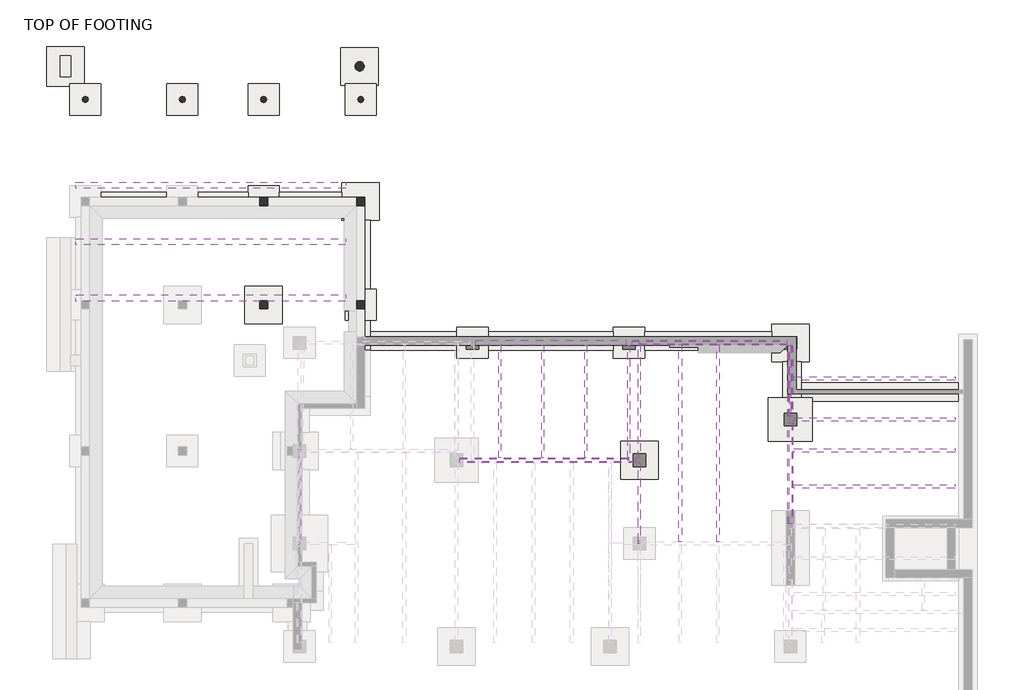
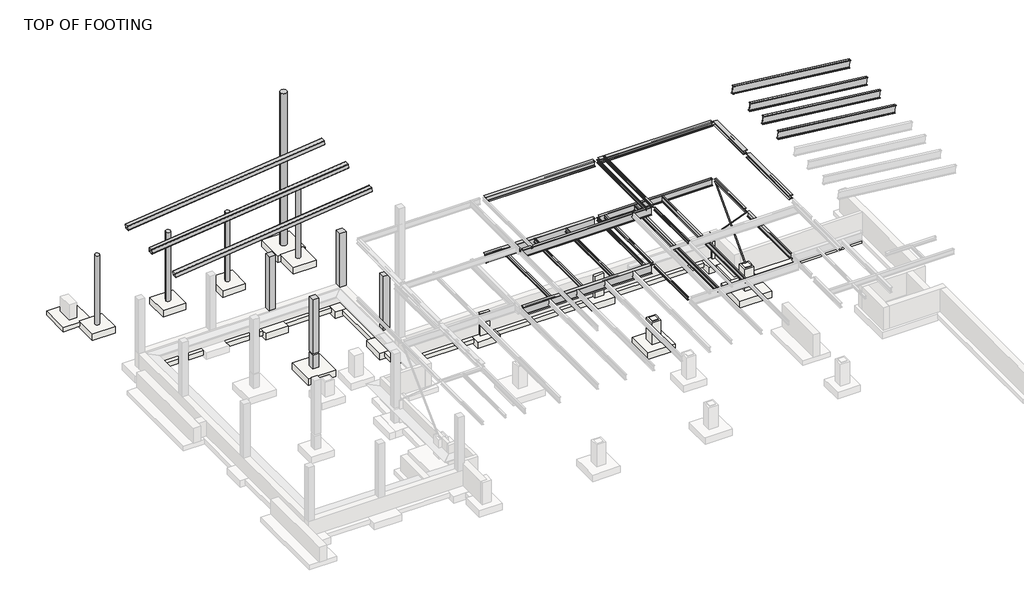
# One storey, part 4 of 4: 28 beams, 14 slabs, 9 columns, 6 footings, 2 members.
"""IFC4 building model written with IfcOpenShell, lengths in millimetres."""

from ifc_helpers import new_model, si_unit, point, frame, frame_2d, origin, place, context, project, spatial, polyline, circle_curve, trimmed, segment, composite_curve, outline, extrude, faceted_brep, transform, mapped, element, save
from components import hss_hollow_structural_section_hss12x12x1_2_ac1cf4bf, hss_hollow_structural_section_hss12x12x1_2_830ae8b1, w_wide_flange_w10x12_049afd95, w_wide_flange_w10x49_ad4ce5ef, w_wide_flange_w10x49_01df90bb, w_wide_flange_w10x49_a7e93ba8, w_wide_flange_w14x22_59cbeafc, w_wide_flange_w14x22_9bef81b0, w_wide_flange_w14x61_a1268b43, w_wide_flange_w18x46_8f6cf0fd, w_wide_flange_w21x44_bd9b7f00, w_wide_flange_w21x44_d1ecdd04, w_wide_flange_w21x44_476cda67, w_wide_flange_w21x44_bd7c8782, w_wide_flange_w21x44_7aeec852, w_wide_flange_w24x84_0eef56af, w_wide_flange_w24x84_97a9cff7, w_wide_flange_w8x10_1bc876d9, w_wide_flange_w8x10_22581100, w_wide_flange_w8x10_418ab950, w_wide_flange_w8x10_6a41b71d, w_wide_flange_w8x10_be9bb2d2, slab_df1ede25, slab_6d6a3403, footing_rectangular_with_pier_e052c68f

model = new_model("IFC4")

# Units and contexts
model_context = context("Model", 3, world=origin())
ifc_project = project(units=[si_unit("LENGTHUNIT", "METRE", prefix="MILLI")], contexts=[model_context])

# Site, building, storey
site = spatial("IfcSite", under=ifc_project)
building = spatial("IfcBuilding", under=site)
storey = spatial("IfcBuildingStorey", under=building, Name="TOP OF FOOTING", Elevation=28905.2)

# Beams
placement = place(None, origin())
hss_hollow_structural_section_hss12x12x1_2_shape = hss_hollow_structural_section_hss12x12x1_2_ac1cf4bf(model_context)
element("IfcBeam", 1, ObjectType="HSS-Hollow Structural Section : HSS12X12X1/2", at=placement, inside=storey, context=model_context, shape_type="MappedRepresentation", body=[
    mapped(hss_hollow_structural_section_hss12x12x1_2_shape, transform((-14730.32539, 15509.5995005, 39127.1188846), x_axis=(-0.9938030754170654, 0.0, -0.11115505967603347), y_axis=(0.0, -1.0, 0.0), z_axis=(-0.11115505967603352, 0.0, 0.9938030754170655))),
])
hss_hollow_structural_section_hss12x12x1_2_2_shape = hss_hollow_structural_section_hss12x12x1_2_830ae8b1(model_context)
element("IfcBeam", 2, ObjectType="HSS-Hollow Structural Section : HSS12X12X1/2", at=placement, inside=storey, context=model_context, shape_type="MappedRepresentation", body=[
    mapped(hss_hollow_structural_section_hss12x12x1_2_2_shape, transform((-14730.32539, 12766.3995005, 39127.1188846), x_axis=(-0.9938030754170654, 0.0, -0.11115505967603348), y_axis=(0.0, -1.0, 0.0), z_axis=(-0.1111550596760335, 0.0, 0.9938030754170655))),
])
element("IfcBeam", 3, ObjectType="HSS-Hollow Structural Section : HSS12X12X1/2", at=placement, inside=storey, context=model_context, shape_type="MappedRepresentation", body=[
    mapped(hss_hollow_structural_section_hss12x12x1_2_2_shape, transform((-14730.32539, 10023.1995005, 39127.1188846), x_axis=(-0.9938030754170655, 0.0, -0.11115505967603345), y_axis=(0.0, -1.0000000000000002, 0.0), z_axis=(-0.11115505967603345, 0.0, 0.9938030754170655))),
])
w_wide_flange_w10x12_shape = w_wide_flange_w10x12_049afd95(model_context)
element("IfcBeam", 4, ObjectType="W-Wide Flange : W10X12", at=placement, inside=storey, context=model_context, shape_type="MappedRepresentation", body=[
    mapped(w_wide_flange_w10x12_shape, transform((-589.9923357, 4984.1570005, 34253.551), x_axis=(0.0, -1.0, 0.0), y_axis=(1.0, 0.0, 0.0), z_axis=(0.0, 0.0, 1.0))),
])
element("IfcBeam", 5, ObjectType="W-Wide Flange : W10X12", at=placement, inside=storey, context=model_context, shape_type="MappedRepresentation", body=[
    mapped(w_wide_flange_w10x12_shape, transform((1509.8732893, 4984.1570005, 34253.551), x_axis=(0.0, -1.0, 0.0), y_axis=(1.0, 0.0, 0.0), z_axis=(0.0, 0.0, 1.0))),
])
element("IfcBeam", 6, ObjectType="W-Wide Flange : W10X12", at=placement, inside=storey, context=model_context, shape_type="MappedRepresentation", body=[
    mapped(w_wide_flange_w10x12_shape, transform((3609.7389143, 4984.1570005, 34253.551), x_axis=(0.0, -1.0, 0.0), y_axis=(1.0, 0.0, 0.0), z_axis=(0.0, 0.0, 1.0))),
])
w_wide_flange_w10x49_shape = w_wide_flange_w10x49_ad4ce5ef(model_context)
element("IfcBeam", 7, ObjectType="W-Wide Flange : W10X49", at=placement, inside=storey, context=model_context, shape_type="MappedRepresentation", body=[
    mapped(w_wide_flange_w10x49_shape, transform((9638.6670393, 7843.2445005, 38277.8), x_axis=(1.0, 0.0, 0.0), y_axis=(0.0, 1.0, 0.0), z_axis=(0.0, 0.0, 1.0))),
])
w_wide_flange_w10x49_2_shape = w_wide_flange_w10x49_01df90bb(model_context)
element("IfcBeam", 8, ObjectType="W-Wide Flange : W10X49", at=placement, inside=storey, context=model_context, shape_type="MappedRepresentation", body=[
    mapped(w_wide_flange_w10x49_2_shape, transform((13567.7295393, 5974.7570005, 38341.3), x_axis=(0.0, -1.0, 0.0), y_axis=(1.0, 0.0, 0.0), z_axis=(0.0, 0.0, 1.0))),
])
w_wide_flange_w10x49_3_shape = w_wide_flange_w10x49_a7e93ba8(model_context)
element("IfcBeam", 9, ObjectType="W-Wide Flange : W10X49", at=placement, inside=storey, context=model_context, shape_type="MappedRepresentation", body=[
    mapped(w_wide_flange_w10x49_3_shape, transform((13567.7295393, 1507.2018176, 38341.3), x_axis=(0.0, -1.0, 0.0), y_axis=(1.0, 0.0, 0.0), z_axis=(0.0, 0.0, 1.0))),
])
w_wide_flange_w14x22_shape = w_wide_flange_w14x22_59cbeafc(model_context)
element("IfcBeam", 10, ObjectType="W-Wide Flange : W14X22", at=placement, inside=storey, context=model_context, shape_type="MappedRepresentation", body=[
    mapped(w_wide_flange_w14x22_shape, transform((13567.7295393, 1512.895307, 34204.91), x_axis=(0.0, -1.0, 0.0), y_axis=(1.0, 0.0, 0.0), z_axis=(0.0, 0.0, 1.0))),
])
w_wide_flange_w14x22_2_shape = w_wide_flange_w14x22_9bef81b0(model_context)
element("IfcBeam", 11, ObjectType="W-Wide Flange : W14X22", at=placement, inside=storey, context=model_context, shape_type="MappedRepresentation", body=[
    mapped(w_wide_flange_w14x22_2_shape, transform((8209.3878726, 2953.7445005, 34204.91), x_axis=(0.0, -1.0, 0.0), y_axis=(1.0, 0.0, 0.0), z_axis=(0.0, 0.0, 1.0))),
])
element("IfcBeam", 12, ObjectType="W-Wide Flange : W14X22", at=placement, inside=storey, context=model_context, shape_type="MappedRepresentation", body=[
    mapped(w_wide_flange_w14x22_2_shape, transform((10037.658706, 2953.7445005, 34204.91), x_axis=(0.0, -1.0, 0.0), y_axis=(1.0, 0.0, 0.0), z_axis=(0.0, 0.0, 1.0))),
])
w_wide_flange_w14x61_shape = w_wide_flange_w14x61_a1268b43(model_context)
element("IfcBeam", 13, ObjectType="W-Wide Flange : W14X61", at=placement, inside=storey, context=model_context, shape_type="MappedRepresentation", body=[
    mapped(w_wide_flange_w14x61_shape, transform((1899.6045393, 7843.2445005, 38228.27), x_axis=(1.0, 0.0, 0.0), y_axis=(0.0, 1.0, 0.0), z_axis=(0.0, 0.0, 1.0))),
])
w_wide_flange_w18x46_shape = w_wide_flange_w18x46_8f6cf0fd(model_context)
element("IfcBeam", 14, ObjectType="W-Wide Flange : W18X46", at=placement, inside=storey, context=model_context, shape_type="MappedRepresentation", body=[
    mapped(w_wide_flange_w18x46_shape, transform((9638.6670393, 7843.2445005, 34149.03), x_axis=(1.0, 0.0, 0.0), y_axis=(0.0, 1.0, 0.0), z_axis=(0.0, 0.0, 1.0))),
])
w_wide_flange_w21x44_shape = w_wide_flange_w21x44_bd9b7f00(model_context)
element("IfcBeam", 15, ObjectType="W-Wide Flange : W21X44", at=placement, inside=storey, context=model_context, shape_type="MappedRepresentation", body=[
    mapped(w_wide_flange_w21x44_shape, transform((1695.6107893, 2125.0695005, 38141.91), x_axis=(1.0, 0.0, 0.0), y_axis=(0.0, 1.0, 0.0), z_axis=(0.0, 0.0, 1.0))),
])
w_wide_flange_w21x44_2_shape = w_wide_flange_w21x44_d1ecdd04(model_context)
element("IfcBeam", 16, ObjectType="W-Wide Flange : W21X44", at=placement, inside=storey, context=model_context, shape_type="MappedRepresentation", body=[
    mapped(w_wide_flange_w21x44_2_shape, transform((17638.6404524, 848.7029641, 41130.9681954), x_axis=(0.993803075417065, 0.0, -0.11115505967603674), y_axis=(0.0, 1.0, 0.0), z_axis=(0.11115505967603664, 0.0, 0.9938030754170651))),
])
w_wide_flange_w21x44_3_shape = w_wide_flange_w21x44_476cda67(model_context)
element("IfcBeam", 17, ObjectType="W-Wide Flange : W21X44", at=placement, inside=storey, context=model_context, shape_type="MappedRepresentation", body=[
    mapped(w_wide_flange_w21x44_3_shape, transform((17638.6516897, 2597.3383482, 41130.9669385), x_axis=(0.993803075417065, 0.0, -0.11115505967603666), y_axis=(0.0, 1.0, 0.0), z_axis=(0.11115505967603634, 0.0, 0.9938030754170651))),
])
w_wide_flange_w21x44_4_shape = w_wide_flange_w21x44_bd7c8782(model_context)
element("IfcBeam", 18, ObjectType="W-Wide Flange : W21X44", at=placement, inside=storey, context=model_context, shape_type="MappedRepresentation", body=[
    mapped(w_wide_flange_w21x44_4_shape, transform((17638.6613866, 4106.2695005, 41130.9658539), x_axis=(0.9938030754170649, 0.0, -0.1111550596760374), y_axis=(0.0, 0.9999999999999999, 0.0), z_axis=(0.1111550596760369, 0.0, 0.993803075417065))),
])
w_wide_flange_w21x44_5_shape = w_wide_flange_w21x44_7aeec852(model_context)
element("IfcBeam", 19, ObjectType="W-Wide Flange : W21X44", at=placement, inside=storey, context=model_context, shape_type="MappedRepresentation", body=[
    mapped(w_wide_flange_w21x44_5_shape, transform((17638.6741644, 6094.6091164, 41130.9644247), x_axis=(0.9938030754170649, 0.0, -0.1111550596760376), y_axis=(0.0, 1.0, 0.0), z_axis=(0.11115505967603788, 0.0, 0.9938030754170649))),
])
w_wide_flange_w24x84_shape = w_wide_flange_w24x84_0eef56af(model_context)
element("IfcBeam", 20, ObjectType="W-Wide Flange : W24X84", at=placement, inside=storey, context=model_context, shape_type="MappedRepresentation", body=[
    mapped(w_wide_flange_w24x84_shape, transform((1899.6045393, 7843.2445005, 34072.83), x_axis=(1.0, 0.0, 0.0), y_axis=(0.0, 1.0, 0.0), z_axis=(0.0, 0.0, 1.0))),
])
w_wide_flange_w24x84_2_shape = w_wide_flange_w24x84_97a9cff7(model_context)
element("IfcBeam", 21, ObjectType="W-Wide Flange : W24X84", at=placement, inside=storey, context=model_context, shape_type="MappedRepresentation", body=[
    mapped(w_wide_flange_w24x84_2_shape, transform((1695.6107893, 2125.0695005, 34072.83), x_axis=(1.0, 0.0, 0.0), y_axis=(0.0, 1.0, 0.0), z_axis=(0.0, 0.0, 1.0))),
])
w_wide_flange_w8x10_shape = w_wide_flange_w8x10_1bc876d9(model_context)
element("IfcBeam", 22, ObjectType="W-Wide Flange : W8X10", at=placement, inside=storey, context=model_context, shape_type="MappedRepresentation", body=[
    mapped(w_wide_flange_w8x10_shape, transform((6216.0170393, 94.6570005, 34278.697), x_axis=(0.0, -1.0, 0.0), y_axis=(1.0, 0.0, 0.0), z_axis=(0.0, 0.0, 1.0))),
])
w_wide_flange_w8x10_2_shape = w_wide_flange_w8x10_22581100(model_context)
element("IfcBeam", 23, ObjectType="W-Wide Flange : W8X10", at=placement, inside=storey, context=model_context, shape_type="MappedRepresentation", body=[
    mapped(w_wide_flange_w8x10_2_shape, transform((5709.6045393, 4984.1570005, 34278.697), x_axis=(0.0, -1.0, 0.0), y_axis=(1.0, 0.0, 0.0), z_axis=(0.0, 0.0, 1.0))),
])
w_wide_flange_w8x10_3_shape = w_wide_flange_w8x10_418ab950(model_context)
element("IfcBeam", 24, ObjectType="W-Wide Flange : W8X10", at=placement, inside=storey, context=model_context, shape_type="MappedRepresentation", body=[
    mapped(w_wide_flange_w8x10_3_shape, transform((6216.0170393, 4984.1570005, 34278.697), x_axis=(0.0, -1.0, 0.0), y_axis=(1.0, 0.0, 0.0), z_axis=(0.0, 0.0, 1.0))),
])
w_wide_flange_w8x10_4_shape = w_wide_flange_w8x10_6a41b71d(model_context)
element("IfcBeam", 25, ObjectType="W-Wide Flange : W8X10", at=placement, inside=storey, context=model_context, shape_type="MappedRepresentation", body=[
    mapped(w_wide_flange_w8x10_4_shape, transform((5709.6045393, 4984.1570005, 38368.097), x_axis=(0.0, -1.0, 0.0), y_axis=(1.0, 0.0, 0.0), z_axis=(0.0, 0.0, 1.0))),
])
element("IfcBeam", 26, ObjectType="W-Wide Flange : W8X10", at=placement, inside=storey, context=model_context, shape_type="MappedRepresentation", body=[
    mapped(w_wide_flange_w8x10_4_shape, transform((6216.0170393, 4984.1570005, 38368.097), x_axis=(0.0, 1.0, 0.0), y_axis=(-1.0, 0.0, 0.0), z_axis=(0.0, 0.0, 1.0))),
])
w_wide_flange_w8x10_5_shape = w_wide_flange_w8x10_be9bb2d2(model_context)
element("IfcBeam", 27, ObjectType="W-Wide Flange : W8X10", at=placement, inside=storey, context=model_context, shape_type="MappedRepresentation", body=[
    mapped(w_wide_flange_w8x10_5_shape, transform((6216.0170393, 94.6570005, 38304.597), x_axis=(0.0, 1.0, 0.0), y_axis=(-1.0, 0.0, 0.0), z_axis=(0.0, 0.0, 1.0))),
])
element("IfcBeam", 28, ObjectType="W-Wide Flange : W8X18", at=placement, inside=storey, context=model_context, shape_type="SweptSolid", body=[
    extrude(outline(composite_curve([segment(polyline([(34180.526, 13634.4045393), (34180.526, 13582.9060393)]), True, "CONTINUOUS"), segment(trimmed(circle_curve(frame_2d((34192.7815, 13582.9060393)), 12.2555), [point((34180.526, 13582.9060393))], [point((34192.7815, 13570.6505393))], True, "CARTESIAN"), True, "CONTINUOUS"), segment(polyline([(34192.7815, 13570.6505393), (34358.2625, 13570.6505393)]), True, "CONTINUOUS"), segment(trimmed(circle_curve(frame_2d((34358.2625, 13582.9060393)), 12.2555), [point((34358.2625, 13570.6505393))], [point((34370.518, 13582.9060393))], True, "CARTESIAN"), True, "CONTINUOUS"), segment(polyline([(34370.518, 13582.9060393), (34370.518, 13634.4045393), (34378.9, 13634.4045393), (34378.9, 13501.0545393), (34370.518, 13501.0545393), (34370.518, 13552.5530393)]), True, "CONTINUOUS"), segment(trimmed(circle_curve(frame_2d((34358.2625, 13552.5530393)), 12.2555), [point((34370.518, 13552.5530393))], [point((34358.2625, 13564.8085393))], True, "CARTESIAN"), True, "CONTINUOUS"), segment(polyline([(34358.2625, 13564.8085393), (34192.7815, 13564.8085393)]), True, "CONTINUOUS"), segment(trimmed(circle_curve(frame_2d((34192.7815, 13552.5530393)), 12.2555), [point((34192.7815, 13564.8085393))], [point((34180.526, 13552.5530393))], True, "CARTESIAN"), True, "CONTINUOUS"), segment(polyline([(34180.526, 13552.5530393), (34180.526, 13501.0545393), (34172.144, 13501.0545393), (34172.144, 13634.4045393), (34180.526, 13634.4045393)]), True, "CONTINUOUS")], self_intersect=False)), frame((0.0, 4270.6253599, 0.0), z_axis=(0.0, 1.0, 0.0), x_axis=(0.0, 0.0, 1.0)), (0.0, 0.0, 1.0), 3458.2695313),
])

# Columns
element("IfcColumn", 29, ObjectType="Concrete-Rectangular-Column : 16 x 16", at=placement, inside=storey, context=model_context, shape_type="Brep", body=[
    faceted_brep([(-7149.1454607, 14926.6695005, 33782.0), (-7149.1454607, 14621.8695005, 33782.0), (-7149.1454607, 14520.2695005, 33782.0), (-7149.1454607, 14520.2695005, 29972.0), (-7149.1454607, 14926.6695005, 29972.0), (-7555.5454607, 14520.2695005, 33782.0), (-7555.5454607, 14520.2695005, 29972.0), (-7555.5454607, 14926.6695005, 33782.0), (-7555.5454607, 14926.6695005, 29972.0)], [[[0, 1, 2, 3, 4]], [[2, 5, 6, 3]], [[5, 7, 8, 6]], [[7, 0, 4, 8]], [[2, 1, 0, 7, 5]], [[4, 3, 6, 8]]]),
])
element("IfcColumn", 30, ObjectType="Concrete-Rectangular-Column : 16 x 16", at=placement, inside=storey, context=model_context, shape_type="SweptSolid", body=[
    extrude(outline(polyline([(-11873.5454607, 14926.6695005), (-11873.5454607, 14520.2695005), (-12279.9454607, 14520.2695005), (-12279.9454607, 14926.6695005), (-11873.5454607, 14926.6695005)])), frame((0.0, 0.0, 29972.0), z_axis=(0.0, 0.0, 1.0), x_axis=(1.0, 0.0, 0.0)), (0.0, 0.0, 1.0), 3810.0),
])
element("IfcColumn", 31, ObjectType="Concrete-Rectangular-Column : 16 x 16", at=placement, inside=storey, context=model_context, shape_type="Brep", body=[
    faceted_brep([(-7149.1454607, 9897.4695005, 33782.0), (-7149.1454607, 9795.8695005, 33782.0), (-7149.1454607, 9491.0695005, 33782.0), (-7149.1454607, 9491.0695005, 29972.0), (-7149.1454607, 9897.4695005, 29972.0), (-7555.5454607, 9491.0695005, 33782.0), (-7555.5454607, 9491.0695005, 29972.0), (-7555.5454607, 9897.4695005, 33782.0), (-7555.5454607, 9897.4695005, 29972.0)], [[[0, 1, 2, 3, 4]], [[2, 5, 6, 3]], [[5, 7, 8, 6]], [[7, 0, 4, 8]], [[2, 1, 0, 7, 5]], [[4, 3, 6, 8]]]),
])
element("IfcColumn", 32, ObjectType="Concrete-Rectangular-Column : 16 x 16", at=placement, inside=storey, context=model_context, shape_type="SweptSolid", body=[
    extrude(outline(polyline([(-11873.5454607, 9897.4695005), (-11873.5454607, 9491.0695005), (-12279.9454607, 9491.0695005), (-12279.9454607, 9897.4695005), (-11873.5454607, 9897.4695005)])), frame((0.0, 0.0, 28905.2), z_axis=(0.0, 0.0, 1.0), x_axis=(1.0, 0.0, 0.0)), (0.0, 0.0, 1.0), 965.2),
    extrude(outline(polyline([(-11873.5454607, 9897.4695005), (-11873.5454607, 9491.0695005), (-12279.9454607, 9491.0695005), (-12279.9454607, 9897.4695005), (-11873.5454607, 9897.4695005)])), frame((0.0, 0.0, 29972.0), z_axis=(0.0, 0.0, 1.0), x_axis=(1.0, 0.0, 0.0)), (0.0, 0.0, 1.0), 3810.0),
])
element("IfcColumn", 33, ObjectType="Concrete-Round-Column : 12\"", at=placement, inside=storey, context=model_context, shape_type="SweptSolid", body=[
    extrude(outline(composite_curve([segment(trimmed(circle_curve(frame_2d((-20763.5454607, 19695.5195005)), 152.4), [point((-20915.9454607, 19695.5195005))], [point((-20611.1454607, 19695.5195005))], False, "CARTESIAN"), True, "CONTINUOUS"), segment(trimmed(circle_curve(frame_2d((-20763.5454607, 19695.5195005)), 152.4), [point((-20611.1454607, 19695.5195005))], [point((-20915.9454607, 19695.5195005))], False, "CARTESIAN"), True, "CONTINUOUS")], self_intersect=False)), frame((0.0, 0.0, 28905.2), z_axis=(0.0, 0.0, 1.0), x_axis=(1.0, 0.0, 0.0)), (0.0, 0.0, 1.0), 4876.8),
])
element("IfcColumn", 34, ObjectType="Concrete-Round-Column : 12\"", at=placement, inside=storey, context=model_context, shape_type="SweptSolid", body=[
    extrude(outline(composite_curve([segment(trimmed(circle_curve(frame_2d((-16039.1454607, 19695.5195005)), 152.4), [point((-16191.5454607, 19695.5195005))], [point((-15886.7454607, 19695.5195005))], False, "CARTESIAN"), True, "CONTINUOUS"), segment(trimmed(circle_curve(frame_2d((-16039.1454607, 19695.5195005)), 152.4), [point((-15886.7454607, 19695.5195005))], [point((-16191.5454607, 19695.5195005))], False, "CARTESIAN"), True, "CONTINUOUS")], self_intersect=False)), frame((0.0, 0.0, 28905.2), z_axis=(0.0, 0.0, 1.0), x_axis=(1.0, 0.0, 0.0)), (0.0, 0.0, 1.0), 4876.8),
])
element("IfcColumn", 35, ObjectType="Concrete-Round-Column : 12\"", at=placement, inside=storey, context=model_context, shape_type="SweptSolid", body=[
    extrude(outline(composite_curve([segment(trimmed(circle_curve(frame_2d((-12076.7454607, 19695.5195005)), 152.4), [point((-12229.1454607, 19695.5195005))], [point((-11924.3454607, 19695.5195005))], False, "CARTESIAN"), True, "CONTINUOUS"), segment(trimmed(circle_curve(frame_2d((-12076.7454607, 19695.5195005)), 152.4), [point((-11924.3454607, 19695.5195005))], [point((-12229.1454607, 19695.5195005))], False, "CARTESIAN"), True, "CONTINUOUS")], self_intersect=False)), frame((0.0, 0.0, 28905.2), z_axis=(0.0, 0.0, 1.0), x_axis=(1.0, 0.0, 0.0)), (0.0, 0.0, 1.0), 4876.8),
])
element("IfcColumn", 36, ObjectType="Concrete-Round-Column : 12\"", at=placement, inside=storey, context=model_context, shape_type="SweptSolid", body=[
    extrude(outline(composite_curve([segment(trimmed(circle_curve(frame_2d((-7352.3454607, 19695.5195005)), 152.4), [point((-7504.7454607, 19695.5195005))], [point((-7199.9454607, 19695.5195005))], False, "CARTESIAN"), True, "CONTINUOUS"), segment(trimmed(circle_curve(frame_2d((-7352.3454607, 19695.5195005)), 152.4), [point((-7199.9454607, 19695.5195005))], [point((-7504.7454607, 19695.5195005))], False, "CARTESIAN"), True, "CONTINUOUS")], self_intersect=False)), frame((0.0, 0.0, 28905.2), z_axis=(0.0, 0.0, 1.0), x_axis=(1.0, 0.0, 0.0)), (0.0, 0.0, 1.0), 4876.8),
])
element("IfcColumn", 37, ObjectType="Concrete-Round-Column1 : 18\"", at=placement, inside=storey, context=model_context, shape_type="SweptSolid", body=[
    extrude(outline(composite_curve([segment(trimmed(circle_curve(frame_2d((-7403.1454607, 21302.0695005)), 228.6), [point((-7631.7454607, 21302.0695005))], [point((-7174.5454607, 21302.0695005))], False, "CARTESIAN"), True, "CONTINUOUS"), segment(trimmed(circle_curve(frame_2d((-7403.1454607, 21302.0695005)), 228.6), [point((-7174.5454607, 21302.0695005))], [point((-7631.7454607, 21302.0695005))], False, "CARTESIAN"), True, "CONTINUOUS")], self_intersect=False)), frame((0.0, 0.0, 28905.2), z_axis=(0.0, 0.0, 1.0), x_axis=(1.0, 0.0, 0.0)), (0.0, 0.0, 1.0), 10717.7043208),
])

# Footings
element("IfcFooting", 38, ObjectType="Bearing Footing - 36\" x 12\"", at=placement, inside=storey, context=model_context, shape_type="SweptSolid", body=[
    extrude(outline(polyline([(-8266.7454607, 15180.6695005), (-8266.7454607, 14266.2695005), (-11314.7454607, 14266.2695005), (-11314.7454607, 15180.6695005), (-8266.7454607, 15180.6695005)])), frame((0.0, 0.0, 28600.4), z_axis=(0.0, 0.0, 1.0), x_axis=(1.0, 0.0, 0.0)), (0.0, 0.0, 1.0), 304.8),
    extrude(outline(polyline([(-12838.7454607, 15180.6695005), (-12838.7454607, 14266.2695005), (-15277.1454607, 14266.2695005), (-15277.1454607, 15180.6695005), (-12838.7454607, 15180.6695005)])), frame((0.0, 0.0, 28600.4), z_axis=(0.0, 0.0, 1.0), x_axis=(1.0, 0.0, 0.0)), (0.0, 0.0, 1.0), 304.8),
    extrude(outline(polyline([(-16801.1454607, 15180.6695005), (-16801.1454607, 14266.2695005), (-20001.5454607, 14266.2695005), (-20001.5454607, 15180.6695005), (-16801.1454607, 15180.6695005)])), frame((0.0, 0.0, 28600.4), z_axis=(0.0, 0.0, 1.0), x_axis=(1.0, 0.0, 0.0)), (0.0, 0.0, 1.0), 304.8),
])
element("IfcFooting", 39, ObjectType="Bearing Footing - 36\" x 12\"", at=placement, inside=storey, context=model_context, shape_type="Brep", body=[
    faceted_brep([(-6895.1454607, 8932.2695005, 28905.2), (-7809.5454607, 8932.2695005, 28905.2), (-7809.5454607, 7471.7695005, 28905.2), (-6895.1454607, 7471.7695005, 28905.2), (-6895.1454607, 8386.1695005, 28905.2), (-6895.1454607, 7471.7695005, 28600.4), (-6895.1454607, 8386.1695005, 28600.4), (-6895.1454607, 8932.2695005, 28600.4), (-7809.5454607, 8932.2695005, 28600.4), (-7809.5454607, 7471.7695005, 28600.4)], [[[0, 1, 2, 3, 4]], [[3, 5, 6, 7, 0, 4]], [[8, 7, 6, 5, 9]], [[9, 2, 1, 8]], [[1, 0, 7, 8]], [[3, 2, 9, 5]]]),
    faceted_brep([(-7809.5454607, 10456.2695005, 28905.2), (-6895.1454607, 10456.2695005, 28905.2), (-6895.1454607, 13809.0695005, 28905.2), (-7809.5454607, 13809.0695005, 28905.2), (-6895.1454607, 10456.2695005, 28600.4), (-6895.1454607, 13809.0695005, 28600.4), (-7809.5454607, 10456.2695005, 28600.4), (-7809.5454607, 13809.0695005, 28600.4)], [[[0, 1, 2, 3]], [[1, 4, 5, 2]], [[4, 6, 7, 5]], [[6, 0, 3, 7]], [[1, 0, 6, 4]], [[3, 2, 5, 7]]]),
])
element("IfcFooting", 40, ObjectType="Bearing Footing - 36\" x 12\"", at=placement, inside=storey, context=model_context, shape_type="SweptSolid", body=[
    extrude(outline(polyline([(-2672.3954607, 8386.1695005), (-2672.3954607, 7471.7695005), (-6895.1454607, 7471.7695005), (-6895.1454607, 8386.1695005), (-2672.3954607, 8386.1695005)])), frame((0.0, 0.0, 28600.4), z_axis=(0.0, 0.0, 1.0), x_axis=(1.0, 0.0, 0.0)), (0.0, 0.0, 1.0), 304.8),
    extrude(outline(polyline([(-1148.3954607, 7471.7695005), (-1148.3954607, 8386.1695005), (4947.6045393, 8386.1695005), (4947.6045393, 7471.7695005), (-1148.3954607, 7471.7695005)])), frame((0.0, 0.0, 28600.4), z_axis=(0.0, 0.0, 1.0), x_axis=(1.0, 0.0, 0.0)), (0.0, 0.0, 1.0), 304.8),
    extrude(outline(polyline([(12653.3295393, 8386.1695005), (12653.3295393, 7471.7695005), (6471.6045393, 7471.7695005), (6471.6045393, 8386.1695005), (12653.3295393, 8386.1695005)])), frame((0.0, 0.0, 28600.4), z_axis=(0.0, 0.0, 1.0), x_axis=(1.0, 0.0, 0.0)), (0.0, 0.0, 1.0), 304.8),
])
element("IfcFooting", 41, ObjectType="Bearing Footing - 36\" x 12\"", at=placement, inside=storey, context=model_context, shape_type="Brep", body=[
    faceted_brep([(14110.6545393, 6928.8445005, 28905.2), (13196.2545393, 6928.8445005, 28905.2), (13196.2545393, 5173.0695005, 28905.2), (14110.6545393, 5173.0695005, 28905.2), (14110.6545393, 5909.6695005, 28905.2), (14110.6545393, 6928.8445005, 28600.4), (14110.6545393, 5173.0695005, 28600.4), (14110.6545393, 5909.6695005, 28600.4), (13196.2545393, 6928.8445005, 28600.4), (13196.2545393, 5173.0695005, 28600.4)], [[[0, 1, 2, 3, 4]], [[5, 0, 4, 3, 6, 7]], [[8, 5, 7, 6, 9]], [[1, 8, 9, 2]], [[1, 0, 5, 8]], [[3, 2, 9, 6]]]),
])
element("IfcFooting", 42, ObjectType="Bearing Footing - 36\" x 12\"", at=placement, inside=storey, context=model_context, shape_type="SweptSolid", body=[
    extrude(outline(polyline([(21765.578935, 5909.6695005), (21765.578935, 4995.2695005), (14634.5295393, 4995.2695005), (14634.5295393, 5173.0695005), (14110.6545393, 5173.0695005), (14110.6545393, 5909.6695005), (21765.578935, 5909.6695005)])), frame((0.0, 0.0, 28600.4), z_axis=(0.0, 0.0, 1.0), x_axis=(1.0, 0.0, 0.0)), (0.0, 0.0, 1.0), 304.8),
])
element("IfcFooting", 43, ObjectType="Bearing Footing - 72\" x 12\" 2", at=placement, inside=storey, context=model_context, shape_type="SweptSolid", body=[
    extrude(outline(polyline([(-22651.3919313, 22270.6082736), (-20822.5919313, 22270.6082736), (-20822.5919313, 20457.5195005), (-21525.5454607, 20457.5195005), (-21525.5454607, 20340.2082736), (-22651.3919313, 20340.2082736), (-22651.3919313, 22270.6082736)])), frame((0.0, 0.0, 28600.4), z_axis=(0.0, 0.0, 1.0), x_axis=(1.0, 0.0, 0.0)), (0.0, 0.0, 1.0), 304.8),
])

# Members
element("IfcMember", 44, ObjectType="HSS-Round Structural Tubing : HSS1.900X0.188", at=placement, inside=storey, context=model_context, shape_type="SweptSolid", body=[
    extrude(outline(composite_curve([segment(trimmed(circle_curve(frame_2d((0.0, -24.13)), 24.13), [point((0.0, -48.26))], [point((0.0, 0.0))], False, "CARTESIAN"), True, "CONTINUOUS"), segment(trimmed(circle_curve(frame_2d((0.0, -24.13)), 24.13), [point((0.0, 0.0))], [point((0.0, -48.26))], False, "CARTESIAN"), True, "CONTINUOUS")], self_intersect=False), holes=[composite_curve([segment(trimmed(circle_curve(frame_2d((0.0, -24.13)), 19.7104), [point((0.0, -4.4196))], [point((0.0, -43.8404))], True, "CARTESIAN"), True, "CONTINUOUS"), segment(trimmed(circle_curve(frame_2d((0.0, -24.13)), 19.7104), [point((0.0, -43.8404))], [point((0.0, -4.4196))], True, "CARTESIAN"), True, "CONTINUOUS")], self_intersect=False)]), frame((13543.5995393, 4284.2035077, 30491.3875394), z_axis=(0.0, 0.6851097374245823, 0.7284398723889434), x_axis=(0.0, 0.7284398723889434, -0.6851097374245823)), (0.0, 0.0, 1.0), 4978.9480636),
])
element("IfcMember", 45, ObjectType="HSS-Round Structural Tubing : HSS1.900X0.188", at=placement, inside=storey, context=model_context, shape_type="SweptSolid", body=[
    extrude(outline(composite_curve([segment(trimmed(circle_curve(frame_2d((0.0, -24.13)), 24.13), [point((0.0, -48.26))], [point((0.0, 0.0))], False, "CARTESIAN"), True, "CONTINUOUS"), segment(trimmed(circle_curve(frame_2d((0.0, -24.13)), 24.13), [point((0.0, 0.0))], [point((0.0, -48.26))], False, "CARTESIAN"), True, "CONTINUOUS")], self_intersect=False), holes=[composite_curve([segment(trimmed(circle_curve(frame_2d((0.0, -24.13)), 19.7104), [point((0.0, -4.4196))], [point((0.0, -43.8404))], True, "CARTESIAN"), True, "CONTINUOUS"), segment(trimmed(circle_curve(frame_2d((0.0, -24.13)), 19.7104), [point((0.0, -43.8404))], [point((0.0, -4.4196))], True, "CARTESIAN"), True, "CONTINUOUS")], self_intersect=False)]), frame((13591.8595393, 7693.2003014, 30493.7622922), z_axis=(0.0, -0.694970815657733, 0.7190379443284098), x_axis=(0.0, -0.7190379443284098, -0.694970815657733)), (0.0, 0.0, 1.0), 5123.6026114),
])

# Slabs
element("IfcSlab", 46, ObjectType="Footing-Rectangular : 5'-0\" x 5'-0\" x 1'-6\"", at=placement, inside=storey, context=model_context, shape_type="Brep", body=[
    faceted_brep([(-6590.3454607, 10456.2695005, 28905.2), (-6895.1454607, 10456.2695005, 28905.2), (-7809.5454607, 10456.2695005, 28905.2), (-8114.3454607, 10456.2695005, 28905.2), (-8114.3454607, 8932.2695005, 28905.2), (-7809.5454607, 8932.2695005, 28905.2), (-6895.1454607, 8932.2695005, 28905.2), (-6590.3454607, 8932.2695005, 28905.2), (-6590.3454607, 10456.2695005, 28448.0), (-6590.3454607, 8932.2695005, 28448.0), (-8114.3454607, 8932.2695005, 28448.0), (-8114.3454607, 10456.2695005, 28448.0)], [[[0, 1, 2, 3, 4, 5, 6, 7]], [[8, 9, 10, 11]], [[3, 2, 1, 0, 8, 11]], [[4, 3, 11, 10]], [[7, 6, 5, 4, 10, 9]], [[0, 7, 9, 8]]]),
])
element("IfcSlab", 47, ObjectType="Footing-Rectangular : 5'-0\" x 5'-0\" x 1'-6\"", at=placement, inside=storey, context=model_context, shape_type="Brep", body=[
    faceted_brep([(-11314.7454607, 15485.4695005, 28905.2), (-12838.7454607, 15485.4695005, 28905.2), (-12838.7454607, 15180.6695005, 28905.2), (-12838.7454607, 14266.2695005, 28905.2), (-12838.7454607, 13961.4695005, 28905.2), (-11314.7454607, 13961.4695005, 28905.2), (-11314.7454607, 14266.2695005, 28905.2), (-11314.7454607, 15180.6695005, 28905.2), (-11314.7454607, 15485.4695005, 28448.0), (-11314.7454607, 13961.4695005, 28448.0), (-12838.7454607, 13961.4695005, 28448.0), (-12838.7454607, 15485.4695005, 28448.0)], [[[0, 1, 2, 3, 4, 5, 6, 7]], [[8, 9, 10, 11]], [[1, 0, 8, 11]], [[4, 3, 2, 1, 11, 10]], [[5, 4, 10, 9]], [[0, 7, 6, 5, 9, 8]]]),
])
element("IfcSlab", 48, ObjectType="Footing-Rectangular : 5'-0\" x 5'-0\" x 1'-6\"", at=placement, inside=storey, context=model_context, shape_type="Brep", body=[
    faceted_brep([(-20001.5454607, 20457.5195005, 28905.2), (-20822.5919313, 20457.5195005, 28905.2), (-21525.5454607, 20457.5195005, 28905.2), (-21525.5454607, 20340.2082736, 28905.2), (-21525.5454607, 18933.5195005, 28905.2), (-20001.5454607, 18933.5195005, 28905.2), (-20001.5454607, 20457.5195005, 28448.0), (-20001.5454607, 18933.5195005, 28448.0), (-21525.5454607, 18933.5195005, 28448.0), (-21525.5454607, 20457.5195005, 28448.0), (-21525.5454607, 20457.5195005, 28600.4)], [[[0, 1, 2, 3, 4, 5]], [[6, 7, 8, 9]], [[2, 1, 0, 6, 9, 10]], [[4, 3, 2, 10, 9, 8]], [[5, 4, 8, 7]], [[0, 5, 7, 6]]]),
])
element("IfcSlab", 49, ObjectType="Footing-Rectangular : 5'-0\" x 5'-0\" x 1'-6\"", at=placement, inside=storey, context=model_context, shape_type="Brep", body=[
    faceted_brep([(-6590.3454607, 20457.5195005, 28905.2), (-8114.3454607, 20457.5195005, 28905.2), (-8114.3454607, 20387.6695005, 28905.2), (-8114.3454607, 18933.5195005, 28905.2), (-6590.3454607, 18933.5195005, 28905.2), (-6590.3454607, 20387.6695005, 28905.2), (-6590.3454607, 20457.5195005, 28448.0), (-6590.3454607, 20387.6695005, 28448.0), (-6590.3454607, 18933.5195005, 28448.0), (-8114.3454607, 18933.5195005, 28448.0), (-8114.3454607, 20387.6695005, 28448.0), (-8114.3454607, 20457.5195005, 28448.0)], [[[0, 1, 2, 3, 4, 5]], [[6, 7, 8, 9, 10, 11]], [[1, 0, 6, 11]], [[3, 2, 1, 11, 10, 9]], [[4, 3, 9, 8]], [[0, 5, 4, 8, 7, 6]]]),
])
slab_shape = slab_df1ede25(model_context)
element("IfcSlab", 50, ObjectType="Footing-Rectangular : 5'-0\" x 5'-0\" x 1'-6\"", at=placement, inside=storey, context=model_context, shape_type="MappedRepresentation", body=[
    mapped(slab_shape, transform((-16039.1454607, 19695.5195005, 28905.2), x_axis=(1.0, 0.0, 0.0), y_axis=(0.0, 1.0, 0.0), z_axis=(0.0, 0.0, 1.0))),
])
element("IfcSlab", 51, ObjectType="Footing-Rectangular : 5'-0\" x 5'-0\" x 1'-6\"", at=placement, inside=storey, context=model_context, shape_type="MappedRepresentation", body=[
    mapped(slab_shape, transform((-12076.7454607, 19695.5195005, 28905.2), x_axis=(1.0, 0.0, 0.0), y_axis=(0.0, 1.0, 0.0), z_axis=(0.0, 0.0, 1.0))),
])
element("IfcSlab", 52, ObjectType="Footing-Rectangular : 6'-0\" x 6'-0\" x 1'-6\"", at=placement, inside=storey, context=model_context, shape_type="Brep", body=[
    faceted_brep([(-6437.9454607, 15637.8695005, 28905.2), (-8266.7454607, 15637.8695005, 28905.2), (-8266.7454607, 15180.6695005, 28905.2), (-8266.7454607, 14266.2695005, 28905.2), (-8266.7454607, 13809.0695005, 28905.2), (-7809.5454607, 13809.0695005, 28905.2), (-6895.1454607, 13809.0695005, 28905.2), (-6437.9454607, 13809.0695005, 28905.2), (-6437.9454607, 15637.8695005, 28448.0), (-6437.9454607, 13809.0695005, 28448.0), (-8266.7454607, 13809.0695005, 28448.0), (-8266.7454607, 15637.8695005, 28448.0)], [[[0, 1, 2, 3, 4, 5, 6, 7]], [[8, 9, 10, 11]], [[1, 0, 8, 11]], [[4, 3, 2, 1, 11, 10]], [[7, 6, 5, 4, 10, 9]], [[0, 7, 9, 8]]]),
])
element("IfcSlab", 53, ObjectType="Footing-Rectangular : 6'-0\" x 6'-0\" x 1'-6\"", at=placement, inside=storey, context=model_context, shape_type="SweptSolid", body=[
    extrude(outline(polyline([(-6488.7454607, 22216.4695005), (-6488.7454607, 20387.6695005), (-6590.3454607, 20387.6695005), (-6590.3454607, 20457.5195005), (-8114.3454607, 20457.5195005), (-8114.3454607, 20387.6695005), (-8317.5454607, 20387.6695005), (-8317.5454607, 22216.4695005), (-6488.7454607, 22216.4695005)])), frame((0.0, 0.0, 28448.0), z_axis=(0.0, 0.0, 1.0), x_axis=(1.0, 0.0, 0.0)), (0.0, 0.0, 1.0), 457.2),
])
slab_2_shape = slab_6d6a3403(model_context)
element("IfcSlab", 54, ObjectType="Footing-Rectangular : 6'-0\" x 6'-0\" x 1'-6\"", at=placement, inside=storey, context=model_context, shape_type="MappedRepresentation", body=[
    mapped(slab_2_shape, transform((-12076.7454607, 9694.2695005, 28905.2), x_axis=(1.0, 0.0, 0.0), y_axis=(0.0, 1.0, 0.0), z_axis=(0.0, 0.0, 1.0))),
])
element("IfcSlab", 55, ObjectType="Footing-Rectangular_With_Pier : F1 - 5'-0\" x 5'-0\" x 1'-6\"", at=placement, inside=storey, context=model_context, shape_type="SolidModel", body=[
    extrude(outline(polyline([(-1605.5954607, 8148.0445005), (-1605.5954607, 7538.4445005), (-2215.1954607, 7538.4445005), (-2215.1954607, 8148.0445005), (-1605.5954607, 8148.0445005)])), frame((0.0, 0.0, 28905.2), z_axis=(0.0, 0.0, 1.0), x_axis=(1.0, 0.0, 0.0)), (0.0, 0.0, 1.0), 1549.4),
    faceted_brep([(-1148.3954607, 8605.2445005, 28905.2), (-2672.3954607, 8605.2445005, 28905.2), (-2672.3954607, 8386.1695005, 28905.2), (-2672.3954607, 7471.7695005, 28905.2), (-2672.3954607, 7081.2445005, 28905.2), (-1148.3954607, 7081.2445005, 28905.2), (-1148.3954607, 7471.7695005, 28905.2), (-1148.3954607, 8386.1695005, 28905.2), (-1148.3954607, 8605.2445005, 28448.0), (-1148.3954607, 7081.2445005, 28448.0), (-2672.3954607, 7081.2445005, 28448.0), (-2672.3954607, 8605.2445005, 28448.0)], [[[0, 1, 2, 3, 4, 5, 6, 7]], [[8, 9, 10, 11]], [[1, 0, 8, 11]], [[4, 3, 2, 1, 11, 10]], [[5, 4, 10, 9]], [[0, 7, 6, 5, 9, 8]]]),
])
element("IfcSlab", 56, ObjectType="Footing-Rectangular_With_Pier : F1 - 5'-0\" x 5'-0\" x 1'-6\"", at=placement, inside=storey, context=model_context, shape_type="SolidModel", body=[
    extrude(outline(polyline([(6014.4045393, 8148.0445005), (6014.4045393, 7538.4445005), (5404.8045393, 7538.4445005), (5404.8045393, 8148.0445005), (6014.4045393, 8148.0445005)])), frame((0.0, 0.0, 28905.2), z_axis=(0.0, 0.0, 1.0), x_axis=(1.0, 0.0, 0.0)), (0.0, 0.0, 1.0), 1549.4),
    faceted_brep([(6471.6045393, 8605.2445005, 28905.2), (4947.6045393, 8605.2445005, 28905.2), (4947.6045393, 8386.1695005, 28905.2), (4947.6045393, 7471.7695005, 28905.2), (4947.6045393, 7081.2445005, 28905.2), (6471.6045393, 7081.2445005, 28905.2), (6471.6045393, 7471.7695005, 28905.2), (6471.6045393, 8386.1695005, 28905.2), (6471.6045393, 8605.2445005, 28448.0), (6471.6045393, 7081.2445005, 28448.0), (4947.6045393, 7081.2445005, 28448.0), (4947.6045393, 8605.2445005, 28448.0)], [[[0, 1, 2, 3, 4, 5, 6, 7]], [[8, 9, 10, 11]], [[1, 0, 8, 11]], [[4, 3, 2, 1, 11, 10]], [[5, 4, 10, 9]], [[0, 7, 6, 5, 9, 8]]]),
])
element("IfcSlab", 57, ObjectType="Footing-Rectangular_With_Pier : F3 - 6'-0\" x 6'-0\" x 1'-6\"", at=placement, inside=storey, context=model_context, shape_type="SolidModel", body=[
    extrude(outline(polyline([(13872.5295393, 8148.0445005), (13872.5295393, 7538.4445005), (13262.9295393, 7538.4445005), (13262.9295393, 8148.0445005), (13872.5295393, 8148.0445005)])), frame((0.0, 0.0, 28905.2), z_axis=(0.0, 0.0, 1.0), x_axis=(1.0, 0.0, 0.0)), (0.0, 0.0, 1.0), 1549.4),
    faceted_brep([(14482.1295393, 8757.6445005, 28905.2), (12653.3295393, 8757.6445005, 28905.2), (12653.3295393, 8386.1695005, 28905.2), (12653.3295393, 7471.7695005, 28905.2), (12653.3295393, 6928.8445005, 28905.2), (13196.2545393, 6928.8445005, 28905.2), (14110.6545393, 6928.8445005, 28905.2), (14482.1295393, 6928.8445005, 28905.2), (14482.1295393, 8757.6445005, 28448.0), (14482.1295393, 6928.8445005, 28448.0), (12653.3295393, 6928.8445005, 28448.0), (12653.3295393, 8757.6445005, 28448.0)], [[[0, 1, 2, 3, 4, 5, 6, 7]], [[8, 9, 10, 11]], [[1, 0, 8, 11]], [[4, 3, 2, 1, 11, 10]], [[7, 6, 5, 4, 10, 9]], [[0, 7, 9, 8]]]),
    extrude(outline(polyline([(13770.9295393, 8046.4445005), (13770.9295393, 7640.0445005), (13364.5295393, 7640.0445005), (13364.5295393, 8046.4445005), (13770.9295393, 8046.4445005)])), frame((0.0, 0.0, 30454.6), z_axis=(0.0, 0.0, 1.0), x_axis=(1.0, 0.0, 0.0)), (0.0, 0.0, 1.0), 25.4),
])
element("IfcSlab", 58, ObjectType="Footing-Rectangular_With_Pier : F6 - 7'-0\" x 7'-0\" x 1'-6\"", at=placement, inside=storey, context=model_context, shape_type="SolidModel", body=[
    extrude(outline(polyline([(13872.5295393, 4411.0695005), (13872.5295393, 3801.4695005), (13262.9295393, 3801.4695005), (13262.9295393, 4411.0695005), (13872.5295393, 4411.0695005)])), frame((0.0, 0.0, 28905.2), z_axis=(0.0, 0.0, 1.0), x_axis=(1.0, 0.0, 0.0)), (0.0, 0.0, 1.0), 1549.4),
    faceted_brep([(14634.5295393, 5173.0695005, 28905.2), (14110.6545393, 5173.0695005, 28905.2), (13196.2545393, 5173.0695005, 28905.2), (12500.9295393, 5173.0695005, 28905.2), (12500.9295393, 3039.4695005, 28905.2), (14634.5295393, 3039.4695005, 28905.2), (14634.5295393, 4995.2695005, 28905.2), (14634.5295393, 5173.0695005, 28448.0), (14634.5295393, 3039.4695005, 28448.0), (12500.9295393, 3039.4695005, 28448.0), (12500.9295393, 5173.0695005, 28448.0), (14634.5295393, 5173.0695005, 28600.4)], [[[0, 1, 2, 3, 4, 5, 6]], [[7, 8, 9, 10]], [[3, 2, 1, 0, 11, 7, 10]], [[4, 3, 10, 9]], [[5, 4, 9, 8]], [[0, 6, 5, 8, 7, 11]]]),
    extrude(outline(polyline([(13770.9295393, 4309.4695005), (13770.9295393, 3903.0695005), (13364.5295393, 3903.0695005), (13364.5295393, 4309.4695005), (13770.9295393, 4309.4695005)])), frame((0.0, 0.0, 30454.6), z_axis=(0.0, 0.0, 1.0), x_axis=(1.0, 0.0, 0.0)), (0.0, 0.0, 1.0), 25.4),
])
footing_rectangular_with_pier_shape = footing_rectangular_with_pier_e052c68f(model_context)
element("IfcSlab", 59, ObjectType="Footing-Rectangular_With_Pier : F3 - 6'-0\" x 6'-0\" x 1'-6\"", at=placement, inside=storey, context=model_context, shape_type="MappedRepresentation", body=[
    mapped(footing_rectangular_with_pier_shape, transform((6216.0170393, 2125.0695005, 28905.2), x_axis=(1.0, 0.0, 0.0), y_axis=(0.0, 1.0, 0.0), z_axis=(0.0, 0.0, 1.0))),
])

save(model, "model.ifc")
